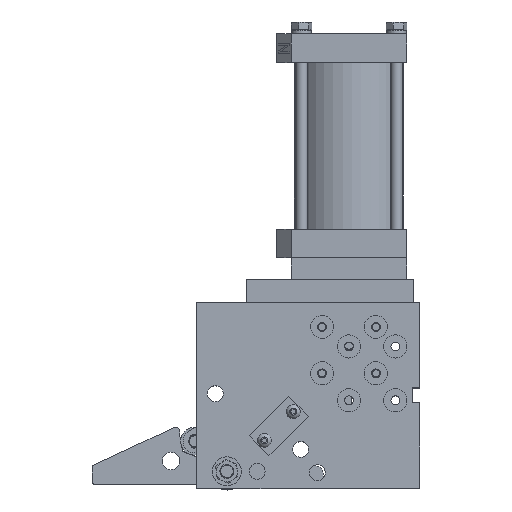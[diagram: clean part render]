
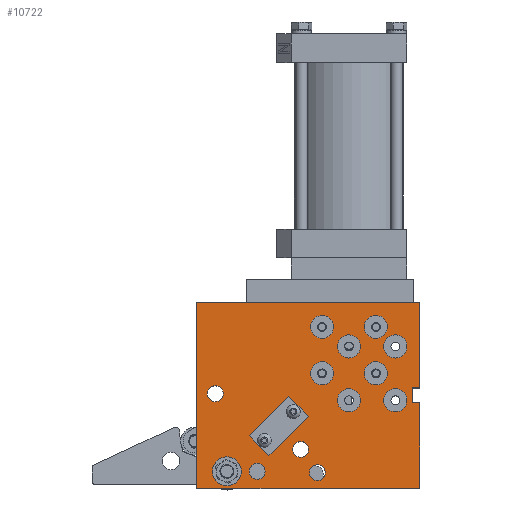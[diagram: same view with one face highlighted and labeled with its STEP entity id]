
A CAD part, top view. The second image highlights one B-rep face of the part: STEP entity #10722.
In plain terms, the highlighted planar face has unit normal (0, 0, 1) as drawn and (0, 0, -1) by its records, which use the part's own axes.
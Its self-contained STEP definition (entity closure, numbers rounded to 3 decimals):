
#552=LINE($,#16903,#1056);
#558=LINE($,#16915,#1062);
#560=LINE($,#16918,#1064);
#561=LINE($,#16921,#1065);
#562=LINE($,#16923,#1066);
#563=LINE($,#16925,#1067);
#564=LINE($,#16927,#1068);
#565=LINE($,#16928,#1069);
#1056=VECTOR($,#13363,5.);
#1062=VECTOR($,#13371,5.);
#1064=VECTOR($,#13375,10.);
#1065=VECTOR($,#13378,58.268);
#1066=VECTOR($,#13379,152.4);
#1067=VECTOR($,#13380,127.);
#1068=VECTOR($,#13381,152.4);
#1069=VECTOR($,#13382,58.732);
#2111=FACE_BOUND($,#3509,.T.);
#2112=FACE_BOUND($,#3510,.T.);
#2113=FACE_BOUND($,#3511,.T.);
#2114=FACE_BOUND($,#3512,.T.);
#2115=FACE_BOUND($,#3513,.T.);
#2116=FACE_BOUND($,#3514,.T.);
#2117=FACE_BOUND($,#3515,.T.);
#2118=FACE_BOUND($,#3516,.T.);
#2119=FACE_BOUND($,#3517,.T.);
#2120=FACE_BOUND($,#3518,.T.);
#2121=FACE_BOUND($,#3519,.T.);
#2122=FACE_BOUND($,#3520,.T.);
#2123=FACE_BOUND($,#3521,.T.);
#2124=FACE_BOUND($,#3522,.T.);
#2125=FACE_BOUND($,#3523,.T.);
#2126=FACE_BOUND($,#3524,.T.);
#2127=FACE_BOUND($,#3525,.T.);
#3509=EDGE_LOOP($,(#7846));
#3510=EDGE_LOOP($,(#7847));
#3511=EDGE_LOOP($,(#7848));
#3512=EDGE_LOOP($,(#7849));
#3513=EDGE_LOOP($,(#7850));
#3514=EDGE_LOOP($,(#7851));
#3515=EDGE_LOOP($,(#7852));
#3516=EDGE_LOOP($,(#7853));
#3517=EDGE_LOOP($,(#7854));
#3518=EDGE_LOOP($,(#7855));
#3519=EDGE_LOOP($,(#7856));
#3520=EDGE_LOOP($,(#7857));
#3521=EDGE_LOOP($,(#7858));
#3522=EDGE_LOOP($,(#7859));
#3523=EDGE_LOOP($,(#7860));
#3524=EDGE_LOOP($,(#7861));
#3525=EDGE_LOOP($,(#7862,#7863,#7864,#7865,#7866,#7867,#7868,#7869));
#4703=CIRCLE($,#11491,7.938);
#4705=CIRCLE($,#11495,9.919);
#4707=CIRCLE($,#11498,2.067);
#4709=CIRCLE($,#11501,2.067);
#4736=CIRCLE($,#11546,7.938);
#4739=CIRCLE($,#11552,7.938);
#4742=CIRCLE($,#11558,7.938);
#4745=CIRCLE($,#11564,7.938);
#4748=CIRCLE($,#11570,7.938);
#4751=CIRCLE($,#11576,7.938);
#4754=CIRCLE($,#11582,7.938);
#4757=CIRCLE($,#11588,7.938);
#4759=CIRCLE($,#11592,5.459);
#4761=CIRCLE($,#11595,5.459);
#4763=CIRCLE($,#11598,5.459);
#4765=CIRCLE($,#11601,5.459);
#5349=VERTEX_POINT($,#16605);
#5351=VERTEX_POINT($,#16611);
#5353=VERTEX_POINT($,#16616);
#5355=VERTEX_POINT($,#16621);
#5382=VERTEX_POINT($,#16693);
#5385=VERTEX_POINT($,#16702);
#5388=VERTEX_POINT($,#16711);
#5391=VERTEX_POINT($,#16720);
#5394=VERTEX_POINT($,#16729);
#5397=VERTEX_POINT($,#16738);
#5400=VERTEX_POINT($,#16747);
#5403=VERTEX_POINT($,#16756);
#5405=VERTEX_POINT($,#16762);
#5407=VERTEX_POINT($,#16767);
#5409=VERTEX_POINT($,#16772);
#5411=VERTEX_POINT($,#16777);
#5435=VERTEX_POINT($,#16900);
#5436=VERTEX_POINT($,#16902);
#5438=VERTEX_POINT($,#16908);
#5441=VERTEX_POINT($,#16913);
#5442=VERTEX_POINT($,#16920);
#5443=VERTEX_POINT($,#16922);
#5444=VERTEX_POINT($,#16924);
#5445=VERTEX_POINT($,#16926);
#6366=EDGE_CURVE($,#5349,#5349,#4703,.T.);
#6368=EDGE_CURVE($,#5351,#5351,#4705,.T.);
#6370=EDGE_CURVE($,#5353,#5353,#4707,.T.);
#6372=EDGE_CURVE($,#5355,#5355,#4709,.T.);
#6399=EDGE_CURVE($,#5382,#5382,#4736,.T.);
#6402=EDGE_CURVE($,#5385,#5385,#4739,.T.);
#6405=EDGE_CURVE($,#5388,#5388,#4742,.T.);
#6408=EDGE_CURVE($,#5391,#5391,#4745,.T.);
#6411=EDGE_CURVE($,#5394,#5394,#4748,.T.);
#6414=EDGE_CURVE($,#5397,#5397,#4751,.T.);
#6417=EDGE_CURVE($,#5400,#5400,#4754,.T.);
#6420=EDGE_CURVE($,#5403,#5403,#4757,.T.);
#6422=EDGE_CURVE($,#5405,#5405,#4759,.T.);
#6424=EDGE_CURVE($,#5407,#5407,#4761,.T.);
#6426=EDGE_CURVE($,#5409,#5409,#4763,.T.);
#6428=EDGE_CURVE($,#5411,#5411,#4765,.T.);
#6462=EDGE_CURVE($,#5435,#5436,#552,.T.);
#6468=EDGE_CURVE($,#5441,#5438,#558,.T.);
#6470=EDGE_CURVE($,#5438,#5435,#560,.T.);
#6471=EDGE_CURVE($,#5441,#5442,#561,.T.);
#6472=EDGE_CURVE($,#5442,#5443,#562,.T.);
#6473=EDGE_CURVE($,#5443,#5444,#563,.T.);
#6474=EDGE_CURVE($,#5444,#5445,#564,.T.);
#6475=EDGE_CURVE($,#5445,#5436,#565,.T.);
#7846=ORIENTED_EDGE($,*,*,#6366,.F.);
#7847=ORIENTED_EDGE($,*,*,#6368,.F.);
#7848=ORIENTED_EDGE($,*,*,#6370,.F.);
#7849=ORIENTED_EDGE($,*,*,#6372,.F.);
#7850=ORIENTED_EDGE($,*,*,#6399,.F.);
#7851=ORIENTED_EDGE($,*,*,#6402,.F.);
#7852=ORIENTED_EDGE($,*,*,#6405,.F.);
#7853=ORIENTED_EDGE($,*,*,#6408,.F.);
#7854=ORIENTED_EDGE($,*,*,#6411,.F.);
#7855=ORIENTED_EDGE($,*,*,#6414,.F.);
#7856=ORIENTED_EDGE($,*,*,#6417,.F.);
#7857=ORIENTED_EDGE($,*,*,#6420,.F.);
#7858=ORIENTED_EDGE($,*,*,#6422,.F.);
#7859=ORIENTED_EDGE($,*,*,#6424,.F.);
#7860=ORIENTED_EDGE($,*,*,#6426,.F.);
#7861=ORIENTED_EDGE($,*,*,#6428,.F.);
#7862=ORIENTED_EDGE($,*,*,#6468,.F.);
#7863=ORIENTED_EDGE($,*,*,#6471,.T.);
#7864=ORIENTED_EDGE($,*,*,#6472,.T.);
#7865=ORIENTED_EDGE($,*,*,#6473,.T.);
#7866=ORIENTED_EDGE($,*,*,#6474,.T.);
#7867=ORIENTED_EDGE($,*,*,#6475,.T.);
#7868=ORIENTED_EDGE($,*,*,#6462,.F.);
#7869=ORIENTED_EDGE($,*,*,#6470,.F.);
#10321=PLANE($,#11656);
#10722=ADVANCED_FACE($,(#2111,#2112,#2113,#2114,#2115,#2116,#2117,#2118,
#2119,#2120,#2121,#2122,#2123,#2124,#2125,#2126,#2127),#10321,.F.);
#11491=AXIS2_PLACEMENT_3D($,#16606,#13036,#13037);
#11495=AXIS2_PLACEMENT_3D($,#16612,#13044,#13045);
#11498=AXIS2_PLACEMENT_3D($,#16617,#13050,#13051);
#11501=AXIS2_PLACEMENT_3D($,#16622,#13056,#13057);
#11546=AXIS2_PLACEMENT_3D($,#16694,#13146,#13147);
#11552=AXIS2_PLACEMENT_3D($,#16703,#13158,#13159);
#11558=AXIS2_PLACEMENT_3D($,#16712,#13170,#13171);
#11564=AXIS2_PLACEMENT_3D($,#16721,#13182,#13183);
#11570=AXIS2_PLACEMENT_3D($,#16730,#13194,#13195);
#11576=AXIS2_PLACEMENT_3D($,#16739,#13206,#13207);
#11582=AXIS2_PLACEMENT_3D($,#16748,#13218,#13219);
#11588=AXIS2_PLACEMENT_3D($,#16757,#13230,#13231);
#11592=AXIS2_PLACEMENT_3D($,#16763,#13238,#13239);
#11595=AXIS2_PLACEMENT_3D($,#16768,#13244,#13245);
#11598=AXIS2_PLACEMENT_3D($,#16773,#13250,#13251);
#11601=AXIS2_PLACEMENT_3D($,#16778,#13256,#13257);
#11656=AXIS2_PLACEMENT_3D($,#16919,#13376,#13377);
#13036=DIRECTION('center_axis',(0.,0.,-1.));
#13037=DIRECTION('ref_axis',(1.,0.,0.));
#13044=DIRECTION('center_axis',(0.,0.,-1.));
#13045=DIRECTION('ref_axis',(1.,0.,0.));
#13050=DIRECTION('center_axis',(0.,0.,-1.));
#13051=DIRECTION('ref_axis',(1.,0.,0.));
#13056=DIRECTION('center_axis',(0.,0.,-1.));
#13057=DIRECTION('ref_axis',(1.,0.,0.));
#13146=DIRECTION('center_axis',(0.,0.,-1.));
#13147=DIRECTION('ref_axis',(1.,0.,0.));
#13158=DIRECTION('center_axis',(0.,0.,-1.));
#13159=DIRECTION('ref_axis',(1.,0.,0.));
#13170=DIRECTION('center_axis',(0.,0.,-1.));
#13171=DIRECTION('ref_axis',(1.,0.,0.));
#13182=DIRECTION('center_axis',(0.,0.,-1.));
#13183=DIRECTION('ref_axis',(1.,0.,0.));
#13194=DIRECTION('center_axis',(0.,0.,-1.));
#13195=DIRECTION('ref_axis',(1.,0.,0.));
#13206=DIRECTION('center_axis',(0.,0.,-1.));
#13207=DIRECTION('ref_axis',(1.,0.,0.));
#13218=DIRECTION('center_axis',(0.,0.,-1.));
#13219=DIRECTION('ref_axis',(1.,0.,0.));
#13230=DIRECTION('center_axis',(0.,0.,-1.));
#13231=DIRECTION('ref_axis',(1.,0.,0.));
#13238=DIRECTION('center_axis',(0.,0.,-1.));
#13239=DIRECTION('ref_axis',(1.,0.,0.));
#13244=DIRECTION('center_axis',(0.,0.,-1.));
#13245=DIRECTION('ref_axis',(1.,0.,0.));
#13250=DIRECTION('center_axis',(0.,0.,-1.));
#13251=DIRECTION('ref_axis',(1.,0.,0.));
#13256=DIRECTION('center_axis',(0.,0.,-1.));
#13257=DIRECTION('ref_axis',(1.,0.,0.));
#13363=DIRECTION($,(-1.,0.,0.));
#13371=DIRECTION($,(1.,0.,0.));
#13375=DIRECTION($,(0.,-1.,0.));
#13376=DIRECTION('center_axis',(0.,0.,1.));
#13377=DIRECTION('ref_axis',(1.,0.,0.));
#13378=DIRECTION($,(0.,1.,0.));
#13379=DIRECTION($,(1.,0.,0.));
#13380=DIRECTION($,(0.,-1.,0.));
#13381=DIRECTION($,(-1.,0.,0.));
#13382=DIRECTION($,(0.,1.,0.));
#16605=CARTESIAN_POINT('',(-23.735,24.784,-12.7));
#16606=CARTESIAN_POINT('Origin',(-31.673,24.784,-12.7));
#16611=CARTESIAN_POINT('',(13.806,-6.204,-12.7));
#16612=CARTESIAN_POINT('Origin',(3.887,-6.204,-12.7));
#16616=CARTESIAN_POINT('',(-19.728,14.906,-12.7));
#16617=CARTESIAN_POINT('Origin',(-21.795,14.906,-12.7));
#16621=CARTESIAN_POINT('',(-39.484,34.662,-12.7));
#16622=CARTESIAN_POINT('Origin',(-41.551,34.662,-12.7));
#16693=CARTESIAN_POINT('',(-53.326,60.852,-12.7));
#16694=CARTESIAN_POINT('Origin',(-61.264,60.852,-12.7));
#16702=CARTESIAN_POINT('',(-71.741,42.437,-12.7));
#16703=CARTESIAN_POINT('Origin',(-79.679,42.437,-12.7));
#16711=CARTESIAN_POINT('',(-53.326,92.602,-12.7));
#16712=CARTESIAN_POINT('Origin',(-61.264,92.602,-12.7));
#16720=CARTESIAN_POINT('',(-71.741,79.267,-12.7));
#16721=CARTESIAN_POINT('Origin',(-79.679,79.267,-12.7));
#16729=CARTESIAN_POINT('',(-90.156,60.852,-12.7));
#16730=CARTESIAN_POINT('Origin',(-98.094,60.852,-12.7));
#16738=CARTESIAN_POINT('',(-103.491,42.437,-12.7));
#16739=CARTESIAN_POINT('Origin',(-111.429,42.437,-12.7));
#16747=CARTESIAN_POINT('',(-90.156,92.602,-12.7));
#16748=CARTESIAN_POINT('Origin',(-98.094,92.602,-12.7));
#16756=CARTESIAN_POINT('',(-103.491,79.267,-12.7));
#16757=CARTESIAN_POINT('Origin',(-111.429,79.267,-12.7));
#16762=CARTESIAN_POINT('',(-11.355,-6.204,-12.7));
#16763=CARTESIAN_POINT('Origin',(-16.814,-6.204,-12.7));
#16767=CARTESIAN_POINT('',(17.22,46.882,-12.7));
#16768=CARTESIAN_POINT('Origin',(11.761,46.882,-12.7));
#16772=CARTESIAN_POINT('',(-41.2,8.782,-12.7));
#16773=CARTESIAN_POINT('Origin',(-46.659,8.782,-12.7));
#16777=CARTESIAN_POINT('',(-52.63,-7.093,-12.7));
#16778=CARTESIAN_POINT('Origin',(-58.089,-7.093,-12.7));
#16900=CARTESIAN_POINT('',(-122.939,40.844,-12.7));
#16902=CARTESIAN_POINT('',(-127.939,40.844,-12.7));
#16903=CARTESIAN_POINT($,(-89.839,40.844,-12.7));
#16908=CARTESIAN_POINT('',(-122.939,50.844,-12.7));
#16913=CARTESIAN_POINT('',(-127.939,50.844,-12.7));
#16915=CARTESIAN_POINT($,(-89.839,50.844,-12.7));
#16918=CARTESIAN_POINT($,(-122.939,45.728,-12.7));
#16919=CARTESIAN_POINT('Origin',(-51.739,45.612,-12.7));
#16920=CARTESIAN_POINT('',(-127.939,109.112,-12.7));
#16921=CARTESIAN_POINT($,(-127.939,-17.888,-12.7));
#16922=CARTESIAN_POINT('',(24.461,109.112,-12.7));
#16923=CARTESIAN_POINT($,(-127.939,109.112,-12.7));
#16924=CARTESIAN_POINT('',(24.461,-17.888,-12.7));
#16925=CARTESIAN_POINT($,(24.461,109.112,-12.7));
#16926=CARTESIAN_POINT('',(-127.939,-17.888,-12.7));
#16927=CARTESIAN_POINT($,(24.461,-17.888,-12.7));
#16928=CARTESIAN_POINT($,(-127.939,-17.888,-12.7));
